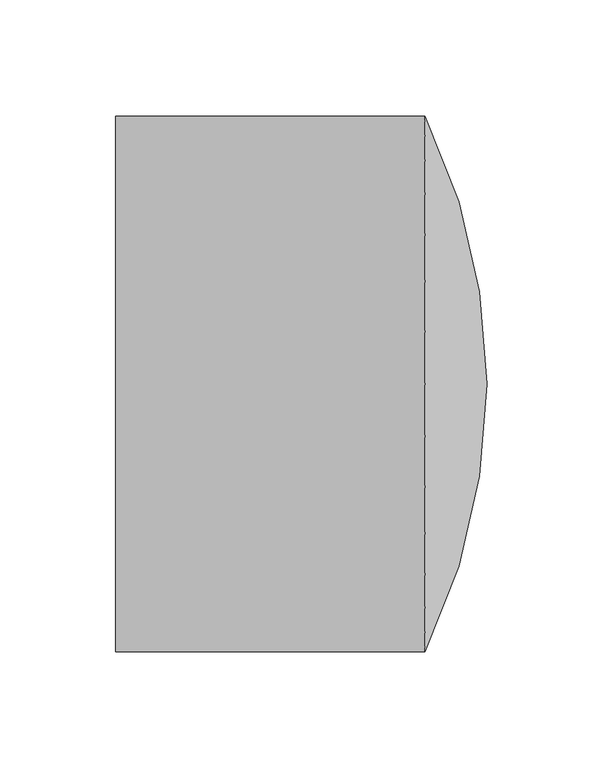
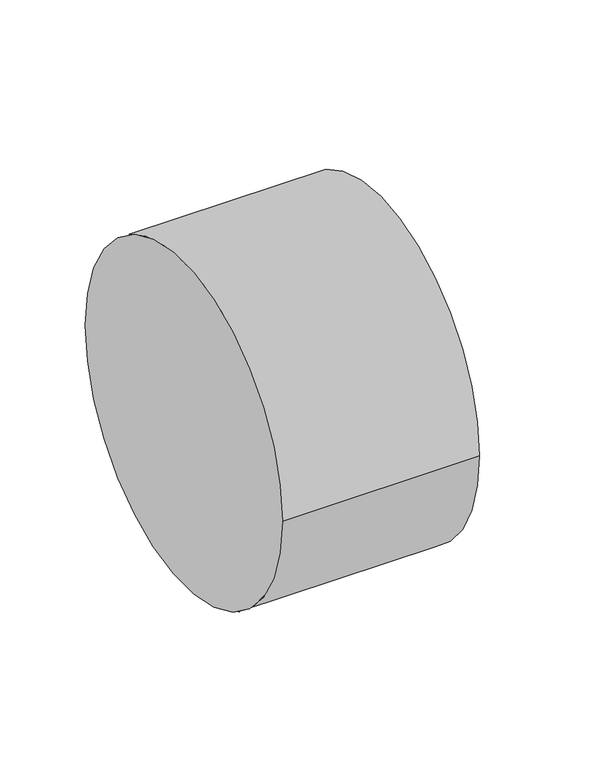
"""IFC4 building model written with IfcOpenShell, lengths in millimetres: pipe fitting geometry, 01051012 : Bouchons F."""

from ifc_helpers import new_model, si_unit, point, frame, origin, place, context, project, spatial, circle_curve, ellipse_curve, trimmed, source, transform, mapped, element, save
from ifc_brep_helpers import plane_surface, cylinder_surface, revolved_surface, advanced_brep


def pipe_fitting_671eba06(model_context):
    return source(origin(), model_context, "Body", "AdvancedBrep", [
        advanced_brep(
        [(133.3333333, 115.5, 0.0), (160.0, 0.0, 0.0), (133.3333333, -115.5, 0.0), (0.0, -115.5, 0.0), (0.0, 115.5, 0.0)],
        [
            (0, 1, circle_curve(frame((-109.2808567, -1.3432233, 0.0), z_axis=(0.0, 0.0, -1.0), x_axis=(1.0, 0.0, 0.0)), 269.2842068)),
            (1, 2, circle_curve(frame((-109.2808567, 1.3432233, 0.0), z_axis=(0.0, 0.0, -1.0), x_axis=(1.0, 0.0, 0.0)), 269.2842068)),
            (2, 0, circle_curve(frame((133.3333333, 0.0, 0.0), z_axis=(1.0, 0.0, 0.0), x_axis=(0.0, 1.0, 0.0)), 115.5)),
            (0, 2, circle_curve(frame((133.3333333, 0.0, 0.0), z_axis=(1.0, 0.0, 0.0), x_axis=(0.0, 1.0, 0.0)), 115.5)),
            (3, 4, circle_curve(frame((0.0, 0.0, 0.0), z_axis=(-1.0, 0.0, 0.0), x_axis=(0.0, 1.0, 0.0)), 115.5)),
            (4, 3, circle_curve(frame((0.0, 0.0, 0.0), z_axis=(-1.0, 0.0, 0.0), x_axis=(0.0, 1.0, 0.0)), 115.5)),
            (3, 2),
            (0, 4),
        ],
        [
            revolved_surface(trimmed(ellipse_curve(frame((-109.2808567, -1.3432233, 0.0), z_axis=(0.0, 0.0, 1.0), x_axis=(1.0, 0.0, 0.0)), 269.2842068, 269.2842068), [point((160.0, 0.0, 0.0))], [point((133.3333333, 115.5, 0.0))], True, "CARTESIAN"), (133.3333333, 0.0, 0.0), (-1.0, 0.0, 0.0)),
            plane_surface(frame((0.0, 0.0, 0.0), z_axis=(-1.0, 0.0, 0.0), x_axis=(0.0, 0.0, 1.0))),
            cylinder_surface(frame((0.0, 0.0, 0.0), z_axis=(-1.0, 0.0, 0.0), x_axis=(0.0, 1.0, 0.0)), 115.5),
        ],
        [
            (0, [[1, 2, 3]]),
            (0, [[-1, 4, -2]]),
            (1, [[5, 6]]),
            (2, [[-5, 7, -4, 8]]),
            (2, [[-6, -8, -3, -7]]),
        ],
    ),
    ])


if __name__ == "__main__":
    model = new_model("IFC4")
    model_context = context("Model", 3, world=origin())
    ifc_project = project(units=[si_unit("LENGTHUNIT", "METRE", prefix="MILLI")], contexts=[model_context])
    site = spatial("IfcSite", under=ifc_project)
    building = spatial("IfcBuilding", under=site)
    placement = place(None, origin())
    pipe_fitting_shape = pipe_fitting_671eba06(model_context)
    element("IfcPipeFitting", 1, ObjectType="01051012 : Bouchons F", at=placement, inside=building, context=model_context, shape_type="MappedRepresentation", body=[
        mapped(pipe_fitting_shape, transform((0.0, 0.0, 0.0), x_axis=(1.0, 0.0, 0.0), y_axis=(0.0, 1.0, 0.0), z_axis=(0.0, 0.0, 1.0))),
    ])
    save(model, "model.ifc")
